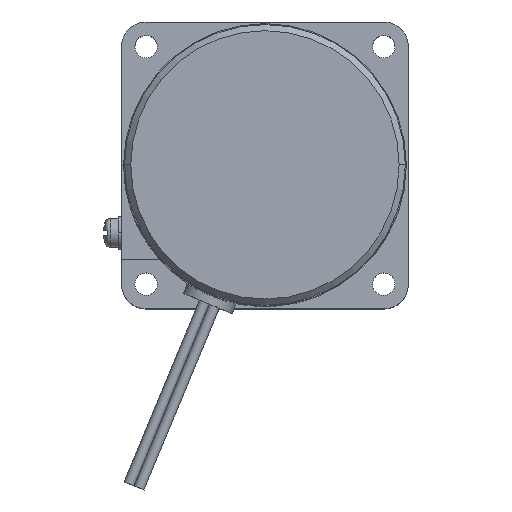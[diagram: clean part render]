
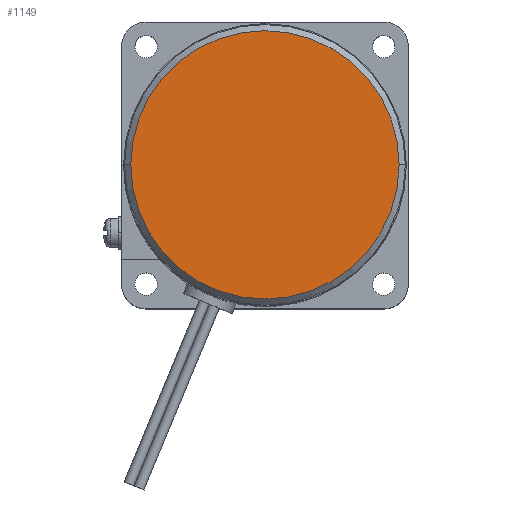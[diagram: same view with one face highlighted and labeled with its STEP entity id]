
A CAD part, top view. The second image highlights one B-rep face of the part: STEP entity #1149.
In plain terms, the highlighted planar face has unit normal (0, 0, 1).
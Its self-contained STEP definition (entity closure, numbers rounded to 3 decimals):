
#302 = CARTESIAN_POINT ( 'NONE',  ( 32.75, 0., 80. ) ) ;
#460 = DIRECTION ( 'NONE',  ( 0., 0., -1. ) ) ;
#525 = DIRECTION ( 'NONE',  ( -1., 0., 0. ) ) ;
#686 = DIRECTION ( 'NONE',  ( 1., 0., 0. ) ) ;
#737 = ORIENTED_EDGE ( 'NONE', *, *, #3766, .F. ) ;
#1034 = CIRCLE ( 'NONE', #3430, 32.75 ) ;
#1149 = ADVANCED_FACE ( 'NONE', ( #1404 ), #1691, .T. ) ;
#1199 = CIRCLE ( 'NONE', #4097, 32.75 ) ;
#1251 = VERTEX_POINT ( 'NONE', #302 ) ;
#1404 = FACE_OUTER_BOUND ( 'NONE', #3284, .T. ) ;
#1691 = PLANE ( 'NONE',  #3511 ) ;
#1731 = DIRECTION ( 'NONE',  ( -1., 0., 0. ) ) ;
#1737 = DIRECTION ( 'NONE',  ( 0., 0., 1. ) ) ;
#2425 = VERTEX_POINT ( 'NONE', #2797 ) ;
#2507 = EDGE_CURVE ( 'NONE', #1251, #2425, #1199, .T. ) ;
#2744 = CARTESIAN_POINT ( 'NONE',  ( 0., 0., 80. ) ) ;
#2797 = CARTESIAN_POINT ( 'NONE',  ( -32.75, 0., 80. ) ) ;
#3083 = DIRECTION ( 'NONE',  ( 0., 0., -1. ) ) ;
#3284 = EDGE_LOOP ( 'NONE', ( #737, #3446 ) ) ;
#3430 = AXIS2_PLACEMENT_3D ( 'NONE', #3900, #460, #525 ) ;
#3446 = ORIENTED_EDGE ( 'NONE', *, *, #2507, .F. ) ;
#3511 = AXIS2_PLACEMENT_3D ( 'NONE', #3707, #1737, #686 ) ;
#3707 = CARTESIAN_POINT ( 'NONE',  ( 0., 32.75, 80. ) ) ;
#3766 = EDGE_CURVE ( 'NONE', #2425, #1251, #1034, .T. ) ;
#3900 = CARTESIAN_POINT ( 'NONE',  ( 0., 0., 80. ) ) ;
#4097 = AXIS2_PLACEMENT_3D ( 'NONE', #2744, #3083, #1731 ) ;
